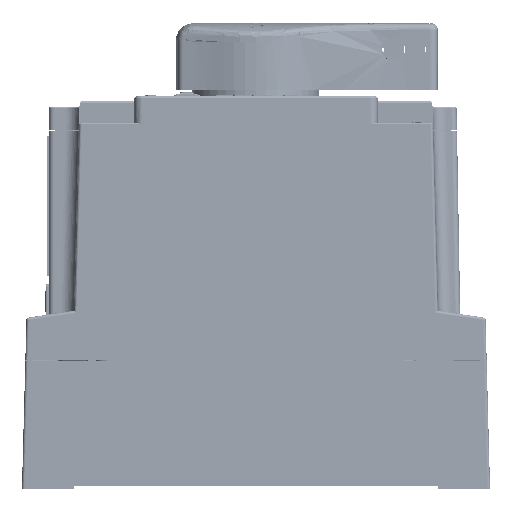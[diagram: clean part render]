
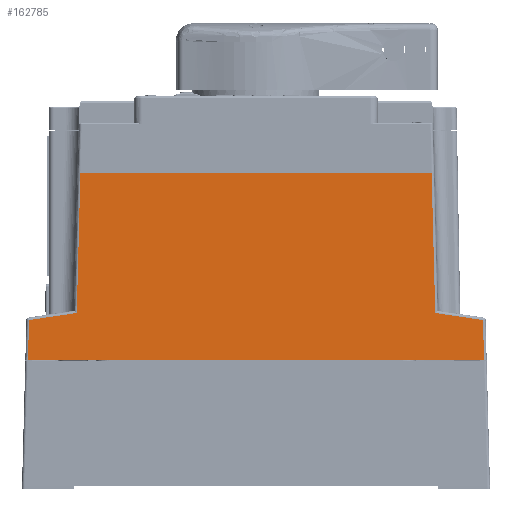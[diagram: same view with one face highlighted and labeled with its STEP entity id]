
A CAD part, left-side view. The second image highlights one B-rep face of the part: STEP entity #162785.
In plain terms, the highlighted planar face has unit normal (-1, 0, 0.018).
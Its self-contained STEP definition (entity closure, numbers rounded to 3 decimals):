
#124533=DIRECTION('',(0.,-1.,0.));
#124534=VECTOR('',#124533,170.528);
#124535=CARTESIAN_POINT('',(-230.176,85.264,47.2));
#124536=LINE('',#124535,#124534);
#126640=DIRECTION('',(0.,1.,0.));
#126641=VECTOR('',#126640,131.312);
#126642=CARTESIAN_POINT('',(-228.958,-65.656,117.));
#126643=LINE('',#126642,#126641);
#131491=DIRECTION('',(-0.017,-0.026,
-1.));
#131492=VECTOR('',#131491,52.206);
#131493=CARTESIAN_POINT('',(-228.958,-65.656,117.));
#131494=LINE('',#131493,#131492);
#131495=DIRECTION('',(-0.003,-0.989,
-0.148));
#131496=VECTOR('',#131495,18.049);
#131497=CARTESIAN_POINT('',(-229.869,-67.022,
64.82));
#131498=LINE('',#131497,#131496);
#131499=DIRECTION('',(-0.017,-0.026,
-1.));
#131500=VECTOR('',#131499,14.96);
#131501=CARTESIAN_POINT('',(-229.915,-84.873,
62.152));
#131502=LINE('',#131501,#131500);
#131503=DIRECTION('',(0.017,-0.026,1.));
#131504=VECTOR('',#131503,14.96);
#131505=CARTESIAN_POINT('',(-230.176,85.264,47.2));
#131506=LINE('',#131505,#131504);
#131507=DIRECTION('',(0.003,-0.989,0.148));
#131508=VECTOR('',#131507,18.049);
#131509=CARTESIAN_POINT('',(-229.915,84.873,
62.152));
#131510=LINE('',#131509,#131508);
#131511=DIRECTION('',(0.017,-0.026,1.));
#131512=VECTOR('',#131511,52.206);
#131513=CARTESIAN_POINT('',(-229.869,67.022,
64.82));
#131514=LINE('',#131513,#131512);
#131515=CARTESIAN_POINT('',(-228.958,-65.656,117.));
#132205=CARTESIAN_POINT('',(-229.869,-67.022,
64.82));
#132213=CARTESIAN_POINT('',(-230.176,85.264,47.2));
#144323=VERTEX_POINT('',#131515);
#144324=CARTESIAN_POINT('',(-228.958,65.656,117.));
#144325=VERTEX_POINT('',#144324);
#145901=VERTEX_POINT('',#132213);
#145902=CARTESIAN_POINT('',(-230.176,-85.264,47.2));
#145903=VERTEX_POINT('',#145902);
#146213=VERTEX_POINT('',#132205);
#146214=CARTESIAN_POINT('',(-229.915,-84.873,
62.152));
#146215=VERTEX_POINT('',#146214);
#146218=CARTESIAN_POINT('',(-229.915,84.873,
62.152));
#146219=VERTEX_POINT('',#146218);
#146220=CARTESIAN_POINT('',(-229.869,67.022,
64.82));
#146221=VERTEX_POINT('',#146220);
#162767=CARTESIAN_POINT('',(-227.43,-87.5,204.53));
#162768=DIRECTION('',(1.,0.,-0.017));
#162769=DIRECTION('',(0.017,0.,1.));
#162770=AXIS2_PLACEMENT_3D('',#162767,#162768,#162769);
#162771=PLANE('',#162770);
#162773=ORIENTED_EDGE('',*,*,#162772,.T.);
#162775=ORIENTED_EDGE('',*,*,#162774,.T.);
#162776=ORIENTED_EDGE('',*,*,#162760,.T.);
#162777=ORIENTED_EDGE('',*,*,#149628,.F.);
#162779=ORIENTED_EDGE('',*,*,#162778,.T.);
#162780=ORIENTED_EDGE('',*,*,#154275,.T.);
#162781=ORIENTED_EDGE('',*,*,#154287,.T.);
#162782=ORIENTED_EDGE('',*,*,#154312,.F.);
#162783=EDGE_LOOP('',(#162773,#162775,#162776,#162777,#162779,#162780,#162781,
#162782));
#162784=FACE_OUTER_BOUND('',#162783,.F.);
#162785=ADVANCED_FACE('',(#162784),#162771,.F.);
#149628=EDGE_CURVE('',#145901,#145903,#124536,.T.);
#154275=EDGE_CURVE('',#146219,#146221,#131510,.T.);
#154287=EDGE_CURVE('',#146221,#144325,#131514,.T.);
#154312=EDGE_CURVE('',#144323,#144325,#126643,.T.);
#162760=EDGE_CURVE('',#146215,#145903,#131502,.T.);
#162772=EDGE_CURVE('',#144323,#146213,#131494,.T.);
#162774=EDGE_CURVE('',#146213,#146215,#131498,.T.);
#162778=EDGE_CURVE('',#145901,#146219,#131506,.T.);
